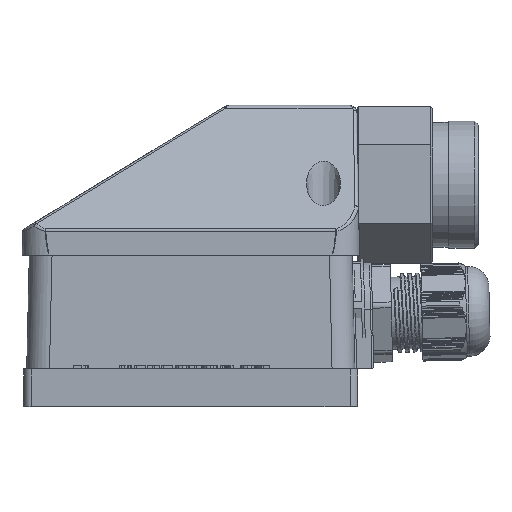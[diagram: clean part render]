
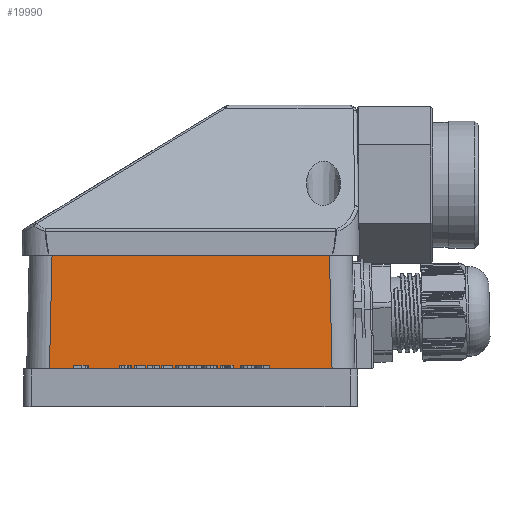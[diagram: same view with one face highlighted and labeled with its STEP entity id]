
A CAD part, left-side view. The second image highlights one B-rep face of the part: STEP entity #19990.
In plain terms, the highlighted planar face has unit normal (-1, 0, 0.023) as drawn and (-1, 0.023, 0) by its records, which use the part's own axes.
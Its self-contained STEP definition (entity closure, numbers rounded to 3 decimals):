
#469=PLANE('',#21335);
#1103=LINE('',#28212,#2821);
#1104=LINE('',#28214,#2822);
#1105=LINE('',#28216,#2823);
#1106=LINE('',#28217,#2824);
#2821=VECTOR('',#23114,1000.);
#2822=VECTOR('',#23115,1000.);
#2823=VECTOR('',#23116,1000.);
#2824=VECTOR('',#23117,1000.);
#5666=FACE_OUTER_BOUND('',#6863,.T.);
#6863=EDGE_LOOP('',(#13981,#13982,#13983,#13984));
#8693=VERTEX_POINT('',#27708);
#8846=VERTEX_POINT('',#28211);
#8847=VERTEX_POINT('',#28213);
#8848=VERTEX_POINT('',#28215);
#10866=EDGE_CURVE('',#8846,#8693,#1103,.T.);
#10867=EDGE_CURVE('',#8693,#8847,#1104,.T.);
#10868=EDGE_CURVE('',#8847,#8848,#1105,.T.);
#10869=EDGE_CURVE('',#8848,#8846,#1106,.T.);
#13981=ORIENTED_EDGE('',*,*,#10866,.T.);
#13982=ORIENTED_EDGE('',*,*,#10867,.T.);
#13983=ORIENTED_EDGE('',*,*,#10868,.T.);
#13984=ORIENTED_EDGE('',*,*,#10869,.T.);
#19990=ADVANCED_FACE('',(#5666),#469,.T.);
#21335=AXIS2_PLACEMENT_3D('',#28210,#23112,#23113);
#23112=DIRECTION('center_axis',(-1.,0.023,0.));
#23113=DIRECTION('ref_axis',(-0.023,-1.,0.));
#23114=DIRECTION('',(0.023,0.999,-0.023));
#23115=DIRECTION('',(0.,0.,-1.));
#23116=DIRECTION('',(-0.023,-0.999,-0.023));
#23117=DIRECTION('',(0.,0.,1.));
#27708=CARTESIAN_POINT('',(0.692,30.511,-6.691));
#28210=CARTESIAN_POINT('Origin',(0.,0.,-86.5));
#28211=CARTESIAN_POINT('',(0.,0.,-5.998));
#28212=CARTESIAN_POINT('',(0.041,1.825,-6.04));
#28213=CARTESIAN_POINT('',(0.692,30.511,-79.809));
#28214=CARTESIAN_POINT('',(0.692,30.511,-79.798));
#28215=CARTESIAN_POINT('',(0.,0.,-80.502));
#28216=CARTESIAN_POINT('',(-0.003,-0.136,-80.505));
#28217=CARTESIAN_POINT('',(0.,0.,-86.5));
